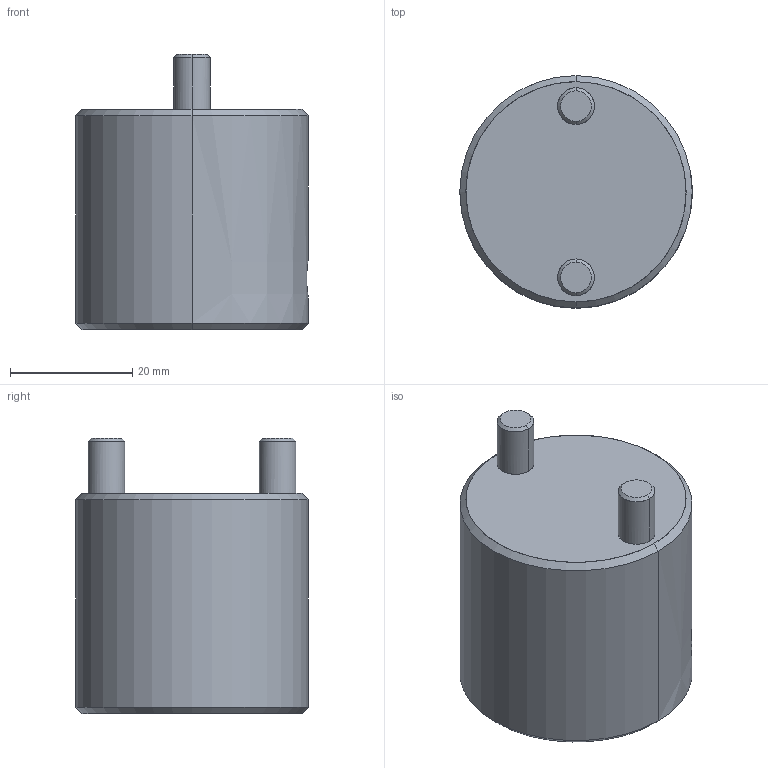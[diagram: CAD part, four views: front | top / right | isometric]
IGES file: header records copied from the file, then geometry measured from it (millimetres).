
Start section: START RECORD GO HERE.
Global section: file name: CS1220.igs; native system: DASSAULT SYSTEMES CATIA V5 R20 - www.3ds.com; preprocessor: CATIA Version 5 Release 20 ; author: r.borello; organization: CFTORINO; date: 20190624.105312; units: millimetre
Bounding box: 38 x 38 x 45 mm (x, y, z)
Surface area: 8776.1 mm2 (no closed solid volume)
Topology: 0 solids, 0 shells, 23 faces, 94 edges, 94 vertices
Faces by surface type: revolution 18, plane 5
